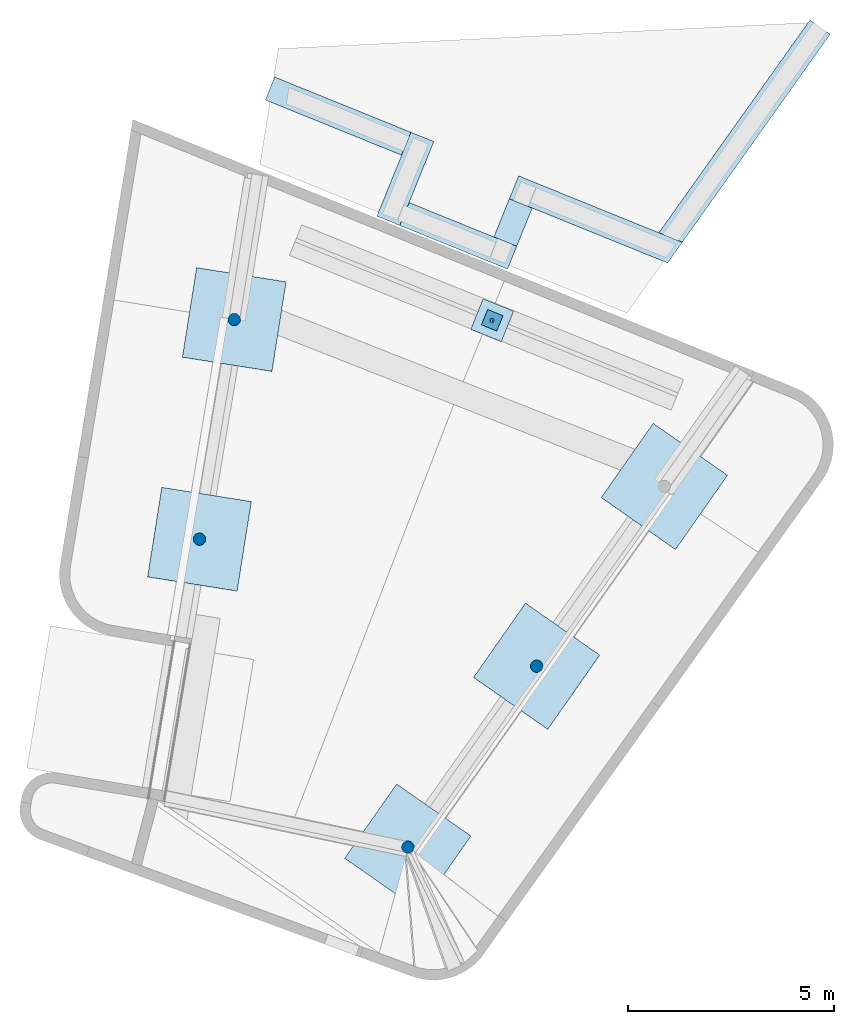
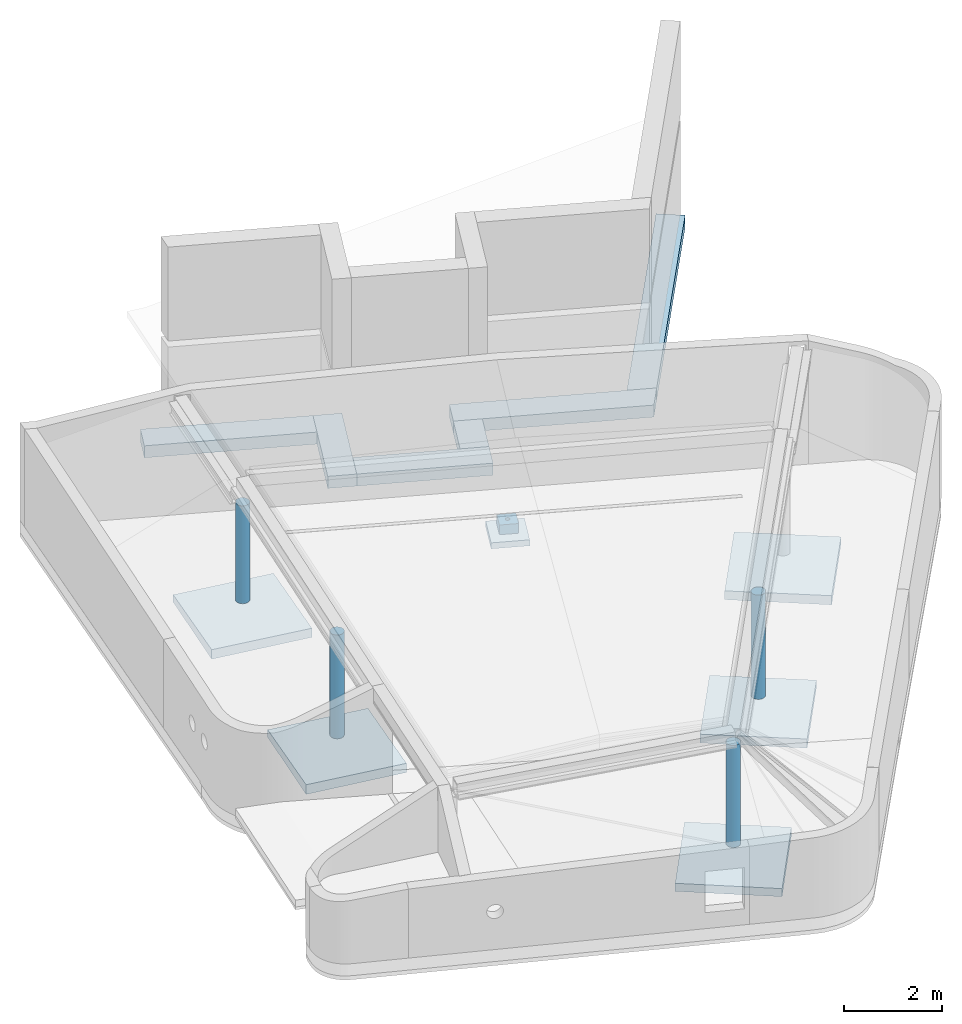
# One storey, part 1 of 8: 13 footings, 4 columns.
"""IFC2X3 building model written with IfcOpenShell, lengths in millimetres."""

from ifc_helpers import new_model, si_unit, frame, origin_with_axes, place, context, subcontext, project, spatial, faceted_brep, material, type_object, element, save


model = new_model("IFC2X3")

# Units and contexts
model_context = context("Model", 3, precision=1e-05, world=origin_with_axes())
body_context = subcontext(model_context, "Body", "Model", "MODEL_VIEW")
ifc_project = project(units=[si_unit("LENGTHUNIT", "METRE", prefix="MILLI"), si_unit("AREAUNIT", "SQUARE_METRE"), si_unit("VOLUMEUNIT", "CUBIC_METRE"), si_unit("MASSUNIT", "GRAM", prefix="KILO"), si_unit("TIMEUNIT", "SECOND"), si_unit("PLANEANGLEUNIT", "RADIAN"), si_unit("SOLIDANGLEUNIT", "STERADIAN"), si_unit("THERMODYNAMICTEMPERATUREUNIT", "DEGREE_CELSIUS"), si_unit("LUMINOUSINTENSITYUNIT", "LUMEN")], contexts=[model_context])

# Site, building, storey
site_placement = place(None, origin_with_axes())
site = spatial("IfcSite", under=ifc_project, at=site_placement, Name="Site", CompositionType="ELEMENT")
building_placement = place(site_placement, origin_with_axes())
building = spatial("IfcBuilding", under=site, at=building_placement, Name="Undefined", CompositionType="ELEMENT")
storey_placement = place(building_placement, origin_with_axes())
storey = spatial("IfcBuildingStorey", under=building, at=storey_placement, Name="Undefined", CompositionType="ELEMENT", Elevation=0.0)

# Footings
ifc_material_1 = material(Name="CONCRETE/C45/55")
footing_1_placement = place(storey_placement, frame((49044.4814740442, 53649.7919003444, 36250.0000000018), z_axis=(0.375513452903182, 0.926799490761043, -0.00568775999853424), x_axis=(0.00213586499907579, 0.00527149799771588, 0.999983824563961)))
element("IfcFooting", 1, at=footing_1_placement, inside=storey, material=ifc_material_1, Name="OLJEUTSKILLER", ObjectType="400*400", PredefinedType="NOTDEFINED", context=body_context, shape_type="Brep", body=[
    faceted_brep([(237.437005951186, 18.1018470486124, -47.3526763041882), (-1.3606040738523e-08, 18.1018470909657, -46.0021698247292), (-1.47338141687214e-08, 2.92681223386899, -49.8016701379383), (237.52679337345, 2.92681219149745, -51.1526873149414), (-1.44136720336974e-08, -12.679594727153, -48.7257901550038), (237.501368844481, -12.6795947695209, -50.0766627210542), (-0.243886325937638, -27.1897099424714, -42.8784573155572), (237.363221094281, -27.1897099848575, -44.2299313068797), (237.125872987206, -39.1831822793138, -34.1848118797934), (-0.186760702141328, -39.1831822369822, -32.8350128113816), (-0.111351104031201, -47.4860069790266, -19.5770026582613), (236.812557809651, -47.486007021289, -20.9245907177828), (-0.0250391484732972, -51.2854458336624, -4.40221326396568), (236.453945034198, -51.2854458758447, -5.74727065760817), (0.0637263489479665, -50.2095832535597, 11.2039412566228), (236.085138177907, -50.209583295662, 9.86148646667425), (0.146256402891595, -44.3637321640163, 25.7138217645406), (235.742238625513, -44.3637322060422, 24.3737867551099), (0.214472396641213, -34.3201252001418, 37.7071000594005), (235.458811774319, -34.3201252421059, 36.369065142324), (0.261696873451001, -21.061900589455, 46.0097904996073), (235.262601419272, -21.0619006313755, 44.6731402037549), (0.283307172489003, -5.88686573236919, 49.8091678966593), (235.172813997, -5.88686577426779, 48.4731512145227), (0.277187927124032, 9.71954122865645, 48.7333227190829), (235.198238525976, 9.71954118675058, 47.3971266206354), (0.243938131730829, 24.2296564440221, 42.8875661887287), (235.336386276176, 24.2296564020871, 41.550395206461), (0.186812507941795, 36.2231287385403, 32.8441216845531), (235.573734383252, 36.2231286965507, 31.5052757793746), (-0.214420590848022, 31.3600717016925, -37.697991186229), (-0.146204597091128, 41.4036786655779, -25.7047128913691), (-0.0636745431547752, 47.2495297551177, -11.1948323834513), (0.0250909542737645, 48.3253923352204, 4.41132213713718), (236.957368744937, 41.4036786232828, -27.0533228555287), (237.240795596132, 31.3600716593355, -39.0486012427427), (236.614469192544, 47.2495297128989, -12.541022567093), (236.245662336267, 48.3253922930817, 3.0677345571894), (235.887049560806, 44.5259534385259, 18.2450546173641), (0.111402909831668, 44.5259534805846, 19.5861115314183), (5.91971911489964e-08, 200.0, 200.0), (5.91971911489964e-08, -199.999999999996, 200.0), (231.592507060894, -200.0, 200.000000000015), (231.592507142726, 199.999999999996, 200.0), (-5.91899151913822e-08, -200.000000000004, -199.999999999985), (241.043787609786, -200.0, -200.0), (-5.91899151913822e-08, 199.999999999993, -199.999999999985), (241.043787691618, 199.999999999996, -199.999999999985)], [[[0, 1, 2, 3]], [[3, 2, 4, 5]], [[5, 4, 6, 7]], [[8, 9, 10, 11]], [[7, 6, 9, 8]], [[12, 10, 9, 6]], [[11, 10, 12, 13]], [[13, 12, 14, 15]], [[15, 14, 16, 17]], [[17, 16, 18, 19]], [[19, 18, 20, 21]], [[21, 20, 22, 23]], [[23, 22, 24, 25]], [[25, 24, 26, 27]], [[27, 26, 28, 29]], [[26, 24, 22, 20, 18, 30, 31, 32, 33]], [[34, 31, 30, 35]], [[36, 32, 31, 34]], [[37, 33, 32, 36]], [[38, 39, 33, 37]], [[29, 28, 39, 38]], [[35, 30, 1, 0]], [[40, 41, 42, 43]], [[41, 44, 45, 42]], [[44, 46, 47, 45]], [[43, 42, 45, 47], [36, 34, 35, 0, 3, 5, 7, 8, 11, 13, 15, 17, 19, 21, 23, 25, 27, 29, 38, 37]], [[46, 40, 43, 47]], [[44, 41, 40, 46], [26, 33, 39, 28], [16, 14, 12, 6, 4, 2, 1, 30, 18]]]),
])
footing_2_placement = place(storey_placement, frame((41938.2175422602, 48333.4841110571, 36300.0202205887), z_axis=(0.15642853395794, 0.987673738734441, -0.00554071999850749), x_axis=(0.00213586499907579, 0.00527149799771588, 0.999983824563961)))
element("IfcFooting", 2, at=footing_2_placement, inside=storey, material=ifc_material_1, Name="PLASSTØPTFUNDAMENT", ObjectType="2200*2200", PredefinedType="NOTDEFINED", context=body_context, shape_type="Brep", body=[
    faceted_brep([(179.291551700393, 1099.99999999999, 1036.03629563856), (211.115547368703, -1100.00000000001, 163.620931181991), (238.92209112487, -1100.00000000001, -1100.00000000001), (226.295985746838, 1099.99999999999, -1099.99999999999), (177.819275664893, 1099.99999999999, 1099.99999999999), (189.562567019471, -1100.00000000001, 1100.0), (-9.10949893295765e-09, -1100.00000000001, -1100.0), (9.11677489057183e-09, -1100.0, 1100.0), (9.11677489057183e-09, 1099.99999999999, 1099.99999999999), (-9.10949893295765e-09, 1099.99999999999, -1100.0)], [[[0, 1, 2, 3]], [[4, 5, 1, 0]], [[6, 7, 8, 9]], [[3, 9, 8, 4, 0]], [[6, 9, 3, 2]], [[7, 6, 2, 1, 5]], [[8, 7, 5, 4]]]),
])
ifc_material_2 = material(Name="CONCRETE/B35")
footing_3_placement = place(storey_placement, frame((49926.4944481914, 56949.7071238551, 36850.0), z_axis=(0.0, 0.0, 1.0), x_axis=(-0.375482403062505, -0.926829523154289, 0.0)))
element("IfcFooting", 3, at=footing_3_placement, inside=storey, material=ifc_material_2, Name="PLASSTØPTFUNDAMENT", ObjectType="300*600", PredefinedType="NOTDEFINED", context=body_context, shape_type="Brep", body=[
    faceted_brep([(500.013998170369, 300.000000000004, -150.0), (500.013998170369, 300.000000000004, 150.0), (1500.16119683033, 299.999999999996, 150.0), (1500.16119683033, 299.999999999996, -150.0), (499.929900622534, -299.999999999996, 150.0), (1499.96777008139, -299.999999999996, 150.0), (499.929900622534, -299.999999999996, -150.0), (1499.96777008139, -299.999999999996, -150.0)], [[[0, 1, 2, 3]], [[1, 4, 5, 2]], [[4, 6, 7, 5]], [[6, 0, 3, 7]], [[5, 7, 3, 2]], [[6, 4, 1, 0]]]),
])
footing_4_placement = place(storey_placement, frame((46822.2084814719, 56266.0701083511, 36850.0000238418), z_axis=(0.0, 0.0, 1.0), x_axis=(0.926708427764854, -0.375781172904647, -9.99999940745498e-09)))
element("IfcFooting", 4, at=footing_4_placement, inside=storey, material=ifc_material_2, Name="PLASSTØPTFUNDAMENT", ObjectType="300*600", PredefinedType="NOTDEFINED", context=body_context, shape_type="Brep", body=[
    faceted_brep([(100.158896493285, 300.0, -150.0), (100.158893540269, 300.000000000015, 150.0), (2920.35364977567, 300.000000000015, 150.0), (2920.35365272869, 300.000000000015, -150.0), (100.352320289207, -299.999999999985, 150.000000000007), (2920.54707652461, -300.0, 150.0), (100.35232324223, -299.999999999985, -149.999999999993), (2920.54707947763, -299.999999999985, -150.0)], [[[0, 1, 2, 3]], [[1, 4, 5, 2]], [[4, 6, 7, 5]], [[6, 0, 3, 7]], [[5, 7, 3, 2]], [[6, 4, 1, 0]]]),
])
footing_5_placement = place(storey_placement, frame((47312.4121125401, 58008.0414740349, 36850.0), z_axis=(0.0, 0.0, 1.0), x_axis=(-0.375482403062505, -0.926829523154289, 0.0)))
element("IfcFooting", 5, at=footing_5_placement, inside=storey, material=ifc_material_2, Name="PLASSTØPTFUNDAMENT", ObjectType="300*600", PredefinedType="NOTDEFINED", context=body_context, shape_type="Brep", body=[
    faceted_brep([(-99.551129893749, 300.0, -150.0), (-99.551129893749, 300.0, 150.0), (2098.60566346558, 299.999999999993, 150.0), (2098.60566346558, 299.999999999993, -150.0), (-99.7749336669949, -300.0, 150.0), (2098.41223671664, -299.999999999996, 150.0), (-99.7749336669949, -300.0, -150.0), (2098.41223671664, -299.999999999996, -150.0)], [[[0, 1, 2, 3]], [[1, 4, 5, 2]], [[4, 6, 7, 5]], [[6, 0, 3, 7]], [[5, 7, 3, 2]], [[6, 4, 1, 0]]]),
])
footing_6_placement = place(storey_placement, frame((43651.0255523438, 59276.7674802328, 36850.0), z_axis=(0.0, 0.0, 1.0), x_axis=(0.926689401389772, -0.375828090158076, 6.00000055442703e-09)))
element("IfcFooting", 6, at=footing_6_placement, inside=storey, material=ifc_material_2, Name="PLASSTØPTFUNDAMENT", ObjectType="300*600", PredefinedType="NOTDEFINED", context=body_context, shape_type="Brep", body=[
    faceted_brep([(1.04155333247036e-08, 300.0, -150.0), (-1.04446371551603e-08, 300.0, 150.0), (3569.75379670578, 300.000000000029, 150.0), (3569.75379481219, 300.000000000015, -150.0), (4.6766217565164e-08, -299.999999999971, 150.0), (3569.97760047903, -299.999999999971, 150.0), (1.04228092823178e-08, -300.0, -150.0), (3569.97759858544, -299.999999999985, -150.0)], [[[0, 1, 2, 3]], [[1, 4, 5, 2]], [[4, 6, 7, 5]], [[6, 0, 3, 7]], [[5, 7, 3, 2]], [[6, 4, 1, 0]]]),
])
footing_7_placement = place(storey_placement, frame((57004.8993181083, 60765.5618649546, 36850.0), z_axis=(0.0, 0.0, 1.0), x_axis=(-0.57926343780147, -0.815140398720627, 0.0)))
element("IfcFooting", 7, at=footing_7_placement, inside=storey, material=ifc_material_2, Name="PLASSTØPTFUNDAMENT", ObjectType="300*600", PredefinedType="NOTDEFINED", context=body_context, shape_type="Brep", body=[
    faceted_brep([(1.04155333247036e-08, 300.0, -150.0), (-1.04446371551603e-08, 300.0, 150.0), (6192.96595295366, 300.000000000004, 150.0), (6192.96595295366, 300.000000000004, -150.0), (4.6766217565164e-08, -299.999999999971, 150.0), (6335.20459934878, -300.0, 150.0), (1.04228092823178e-08, -300.0, -150.0), (6335.20459934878, -300.0, -150.0)], [[[0, 1, 2, 3]], [[1, 4, 5, 2]], [[4, 6, 7, 5]], [[6, 0, 3, 7]], [[5, 7, 3, 2]], [[6, 4, 1, 0]]]),
])
footing_8_placement = place(storey_placement, frame((49044.4814740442, 53649.7919003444, 36052.0000000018), z_axis=(0.375502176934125, 0.926771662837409, -0.00961249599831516), x_axis=(0.00360967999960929, 0.00890900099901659, 0.999953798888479)))
element("IfcFooting", 8, at=footing_8_placement, inside=storey, material=ifc_material_1, Name="PLASSTØPTFUNDAMENT", ObjectType="800*800", PredefinedType="NOTDEFINED", context=body_context, shape_type="Brep", body=[
    faceted_brep([(1.91066646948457e-07, 400.000000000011, -399.999999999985), (-1.91052095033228e-07, 400.000000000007, 400.0), (147.916613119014, 400.000000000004, 400.000000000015), (147.916613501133, 400.000000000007, -400.0), (-1.91059370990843e-07, -399.999999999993, 400.0), (147.916613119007, -399.999999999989, 399.999999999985), (1.91066646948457e-07, -399.999999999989, -400.0), (147.916613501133, -399.999999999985, -400.0)], [[[0, 1, 2, 3]], [[1, 4, 5, 2]], [[4, 6, 7, 5]], [[6, 0, 3, 7]], [[5, 7, 3, 2]], [[6, 4, 1, 0]]]),
])
footing_9_placement = place(storey_placement, frame((42782.9375422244, 53667.0141111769, 36150.02022061), z_axis=(0.15642853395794, 0.987673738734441, -0.00554071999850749), x_axis=(0.00213586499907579, 0.00527149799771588, 0.999983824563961)))
element("IfcFooting", 9, at=footing_9_placement, inside=storey, material=ifc_material_1, Name="PLASSTØPTFUNDAMENT", ObjectType="2200*2200", PredefinedType="NOTDEFINED", context=body_context, shape_type="Brep", body=[
    faceted_brep([(173.584967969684, 1100.00000000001, 1100.00000000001), (185.328259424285, -1100.0, 1100.00000000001), (235.96646601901, -1099.99999999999, -1099.99999999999), (224.223174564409, 1100.0, -1099.99999999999), (-9.10949893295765e-09, -1100.00000000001, -1100.0), (9.11677489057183e-09, -1100.0, 1100.0), (9.11677489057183e-09, 1099.99999999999, 1099.99999999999), (-9.10949893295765e-09, 1099.99999999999, -1100.0)], [[[0, 1, 2, 3]], [[4, 5, 6, 7]], [[7, 6, 0, 3]], [[4, 7, 3, 2]], [[5, 4, 2, 1]], [[6, 5, 1, 0]]]),
])
footing_10_placement = place(storey_placement, frame((53223.9275425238, 49614.7341111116, 36150.0202205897), z_axis=(0.573570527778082, 0.819137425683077, -0.00554323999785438), x_axis=(0.00213586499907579, 0.00527149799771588, 0.999983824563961)))
element("IfcFooting", 10, at=footing_10_placement, inside=storey, material=ifc_material_1, Name="PLASSTØPTFUNDAMENT", ObjectType="2200*2200", PredefinedType="NOTDEFINED", context=body_context, shape_type="Brep", body=[
    faceted_brep([(178.417850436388, 1099.99999999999, 1100.0), (168.543702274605, -1100.00000000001, 1100.0), (217.591025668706, -1100.00000000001, -1099.99999999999), (227.465173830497, 1099.99999999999, -1100.0), (-9.10949893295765e-09, -1100.00000000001, -1100.0), (9.11677489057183e-09, -1100.0, 1100.0), (9.11677489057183e-09, 1099.99999999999, 1099.99999999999), (-9.10949893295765e-09, 1099.99999999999, -1100.0)], [[[0, 1, 2, 3]], [[4, 5, 6, 7]], [[7, 6, 0, 3]], [[4, 7, 3, 2]], [[5, 4, 2, 1]], [[6, 5, 1, 0]]]),
])
footing_11_placement = place(storey_placement, frame((46996.14147402, 40859.7919003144, 36350.0), z_axis=(0.573576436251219, 0.819152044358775, 4.37000002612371e-07), x_axis=(0.0, 0.0, 1.0)))
element("IfcFooting", 11, at=footing_11_placement, inside=storey, material=ifc_material_1, Name="PLASSTØPTFUNDAMENT", ObjectType="2200*2200", PredefinedType="NOTDEFINED", context=body_context, shape_type="Brep", body=[
    faceted_brep([(9.11677489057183e-09, -1100.0, 1100.0), (-9.10949893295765e-09, -1100.00000000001, -1100.0), (200.0, -1100.0, -1099.99999999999), (200.0, -1100.0, 1100.0), (9.11677489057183e-09, 1099.99999999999, 1099.99999999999), (200.0, 1100.00000000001, 1100.0), (-9.10949893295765e-09, 1099.99999999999, -1100.0), (200.0, 1100.0, -1100.0)], [[[0, 1, 2, 3]], [[4, 0, 3, 5]], [[1, 0, 4, 6]], [[1, 6, 7, 2]], [[3, 2, 7, 5]], [[6, 4, 5, 7]]]),
])
footing_12_placement = place(storey_placement, frame((50123.1975424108, 45249.9241110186, 36300.0202205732), z_axis=(0.573570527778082, 0.819137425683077, -0.00554323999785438), x_axis=(0.00213586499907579, 0.00527149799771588, 0.999983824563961)))
element("IfcFooting", 12, at=footing_12_placement, inside=storey, material=ifc_material_1, Name="PLASSTØPTFUNDAMENT", ObjectType="2200*2200", PredefinedType="NOTDEFINED", context=body_context, shape_type="Brep", body=[
    faceted_brep([(177.268340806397, 1100.0, 1100.0), (167.394191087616, -1100.0, 1100.0), (216.441514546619, -1100.0, -1099.99999999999), (226.315664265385, 1099.99999999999, -1099.99999999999), (-9.10949893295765e-09, -1100.00000000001, -1100.0), (9.11677489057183e-09, -1100.0, 1100.0), (9.11677489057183e-09, 1099.99999999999, 1099.99999999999), (-9.10949893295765e-09, 1099.99999999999, -1100.0)], [[[0, 1, 2, 3]], [[4, 5, 6, 7]], [[7, 6, 0, 3]], [[4, 7, 3, 2]], [[5, 4, 2, 1]], [[6, 5, 1, 0]]]),
])
footing_13_placement = place(storey_placement, frame((50036.6489476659, 56689.2913388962, 36850.0), z_axis=(0.0, 0.0, 1.0), x_axis=(0.926776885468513, -0.375612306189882, 7.9999988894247e-09)))
element("IfcFooting", 13, at=footing_13_placement, inside=storey, material=ifc_material_2, Name="PLASSTØPTFUNDAMENT", ObjectType="300*600", PredefinedType="NOTDEFINED", context=body_context, shape_type="Brep", body=[
    faceted_brep([(-499.918041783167, 300.0, -150.000000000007), (-499.918039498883, 300.000000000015, 149.999999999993), (3790.28582693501, 300.000000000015, 150.0), (3790.28582463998, 300.0, -150.0), (-499.833941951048, -299.999999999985, 150.0), (3648.04797866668, -299.999999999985, 150.000000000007), (-499.833944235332, -299.999999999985, -150.0), (3648.04797637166, -299.999999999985, -149.999999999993)], [[[0, 1, 2, 3]], [[1, 4, 5, 2]], [[4, 6, 7, 5]], [[6, 0, 3, 7]], [[5, 7, 3, 2]], [[6, 4, 1, 0]]]),
])

# Columns
ifc_material_3 = material(Name="CONCRETE/C55/67")
column_type = type_object("IfcColumnType", Name="D300", PredefinedType="NOTDEFINED")
column_1_placement = place(storey_placement, frame((41938.7514740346, 48334.8019002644, 36400.0000000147), z_axis=(0.573576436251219, 0.819152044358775, 4.37000002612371e-07), x_axis=(-9.99999999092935e-07, 1.66000000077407e-07, 0.999999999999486)))
element("IfcColumn", 14, at=column_1_placement, inside=storey, type_object=column_type, material=ifc_material_3, Name="PLASSTØPTSØYLE", ObjectType="D300", context=body_context, shape_type="Brep", body=[
    faceted_brep([(406.889775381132, -150.000000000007, 0.0), (406.889785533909, -147.117792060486, -29.2635483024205), (2999.99658725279, -147.117792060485, -29.2635483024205), (2999.99658727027, -150.000000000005, 0.0), (406.889790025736, -138.581929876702, -57.4025148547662), (2999.99658723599, -138.581929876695, -57.4025148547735), (406.889788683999, -124.720441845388, -83.3355349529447), (2999.9965872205, -124.720441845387, -83.3355349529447), (406.889781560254, -106.066017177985, -106.066017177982), (2999.99658720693, -106.066017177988, -106.066017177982), (406.88976892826, -83.3355349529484, -124.720441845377), (2999.99658719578, -83.3355349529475, -124.720441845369), (406.889751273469, -57.4025148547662, -138.581929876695), (2999.99658718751, -57.4025148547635, -138.581929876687), (406.889729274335, -29.2635483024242, -147.117792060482), (2999.99658718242, -29.2635483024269, -147.11779206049), (406.889703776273, 0.0, -149.999999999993), (2999.99658718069, -4.54747350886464e-12, -150.0), (406.889675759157, 29.2635483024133, -147.117792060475), (2999.99658718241, 29.2635483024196, -147.117792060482), (406.889646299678, 57.4025148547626, -138.581929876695), (2999.99658718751, 57.4025148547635, -138.581929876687), (406.889616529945, 83.3355349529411, -124.720441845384), (2999.99658719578, 83.3355349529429, -124.720441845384), (406.889587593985, 106.066017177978, -106.066017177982), (2999.99658720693, 106.066017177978, -106.066017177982), (406.889560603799, 124.72044184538, -83.3355349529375), (2999.9965872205, 124.720441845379, -83.3355349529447), (406.889536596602, 138.581929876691, -57.4025148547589), (2999.99658723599, 138.581929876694, -57.4025148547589), (406.889516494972, 147.117792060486, -29.2635483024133), (2999.99658725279, 147.117792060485, -29.2635483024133), (406.889501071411, 150.0, 7.27595761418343e-12), (2999.99658727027, 149.999999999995, 7.27595761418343e-12), (406.889490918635, 147.117792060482, 29.2635483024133), (2999.99658728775, 147.117792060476, 29.2635483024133), (406.8894864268, 138.581929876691, 57.4025148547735), (2999.99658730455, 138.581929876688, 57.4025148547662), (406.889487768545, 124.72044184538, 83.3355349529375), (2999.99658732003, 124.72044184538, 83.3355349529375), (406.88949489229, 106.066017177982, 106.066017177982), (2999.99658733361, 106.066017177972, 106.066017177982), (406.889507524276, 83.3355349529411, 124.720441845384), (2999.99658734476, 83.3355349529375, 124.720441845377), (406.889525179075, 57.4025148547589, 138.581929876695), (2999.99658735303, 57.4025148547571, 138.581929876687), (406.889547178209, 29.2635483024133, 147.11779206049), (2999.99658735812, 29.2635483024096, 147.117792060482), (406.889572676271, -3.63797880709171e-12, 150.000000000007), (2999.99658735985, -9.09494701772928e-13, 149.999999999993), (406.889600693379, -29.2635483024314, 147.117792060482), (2999.99658735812, -29.2635483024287, 147.117792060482), (406.889630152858, -57.4025148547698, 138.581929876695), (2999.99658735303, -57.4025148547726, 138.581929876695), (406.889659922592, -83.3355349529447, 124.720441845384), (2999.99658734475, -83.3355349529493, 124.720441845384), (406.889688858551, -106.066017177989, 106.066017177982), (2999.99658733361, -106.066017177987, 106.066017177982), (406.889715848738, -124.720441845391, 83.3355349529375), (2999.99658732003, -124.720441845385, 83.3355349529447), (406.889739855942, -138.581929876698, 57.4025148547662), (2999.99658730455, -138.581929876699, 57.4025148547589), (406.889759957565, -147.11779206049, 29.2635483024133), (2999.99658728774, -147.117792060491, 29.2635483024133)], [[[0, 1, 2, 3]], [[1, 4, 5, 2]], [[4, 6, 7, 5]], [[6, 8, 9, 7]], [[8, 10, 11, 9]], [[10, 12, 13, 11]], [[12, 14, 15, 13]], [[14, 16, 17, 15]], [[16, 18, 19, 17]], [[18, 20, 21, 19]], [[20, 22, 23, 21]], [[22, 24, 25, 23]], [[24, 26, 27, 25]], [[26, 28, 29, 27]], [[28, 30, 31, 29]], [[30, 32, 33, 31]], [[32, 34, 35, 33]], [[34, 36, 37, 35]], [[36, 38, 39, 37]], [[38, 40, 41, 39]], [[40, 42, 43, 41]], [[42, 44, 45, 43]], [[44, 46, 47, 45]], [[46, 48, 49, 47]], [[48, 50, 51, 49]], [[50, 52, 53, 51]], [[52, 54, 55, 53]], [[54, 56, 57, 55]], [[56, 58, 59, 57]], [[58, 60, 61, 59]], [[60, 62, 63, 61]], [[62, 0, 3, 63]], [[5, 7, 9, 11, 13, 15, 17, 19, 21, 23, 25, 27, 29, 31, 33, 35, 37, 39, 41, 43, 45, 47, 49, 51, 53, 55, 57, 59, 61, 63, 3, 2]], [[62, 60, 58, 56, 54, 52, 50, 48, 46, 44, 42, 40, 38, 36, 34, 32, 30, 28, 26, 24, 22, 20, 18, 16, 14, 12, 10, 8, 6, 4, 1, 0]]]),
])
column_2_placement = place(storey_placement, frame((42783.4714740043, 53668.3319003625, 36200.0000000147), z_axis=(0.573576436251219, 0.819152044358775, 4.37000002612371e-07), x_axis=(-9.99999999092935e-07, 1.66000000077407e-07, 0.999999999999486)))
element("IfcColumn", 15, at=column_2_placement, inside=storey, type_object=column_type, material=ifc_material_3, Name="PLASSTØPTSØYLE", ObjectType="D300", context=body_context, shape_type="Brep", body=[
    faceted_brep([(452.670552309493, -149.999999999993, 1.45519152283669e-11), (452.6705628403, -147.117792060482, -29.2635483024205), (2899.99658729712, -147.117792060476, -29.2635483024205), (2899.99658727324, -149.999999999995, 0.0), (452.670567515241, -138.581929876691, -57.4025148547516), (2899.99658732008, -138.581929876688, -57.4025148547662), (452.670566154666, -124.720441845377, -83.3355349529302), (2899.99658734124, -124.720441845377, -83.3355349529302), (452.670558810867, -106.066017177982, -106.066017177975), (2899.9965873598, -106.066017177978, -106.066017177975), (452.67054576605, -83.3355349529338, -124.720441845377), (2899.99658737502, -83.3355349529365, -124.720441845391), (452.670527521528, -57.4025148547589, -138.581929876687), (2899.99658738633, -57.4025148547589, -138.581929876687), (452.67050477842, -29.263548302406, -147.117792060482), (2899.9965873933, -29.2635483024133, -147.117792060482), (452.670478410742, 3.63797880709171e-12, -149.999999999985), (2899.99658739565, 2.72848410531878e-12, -149.999999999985), (452.670449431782, 29.2635483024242, -147.117792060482), (2899.9965873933, 29.2635483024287, -147.117792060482), (452.670418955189, 57.4025148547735, -138.581929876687), (2899.99658738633, 57.4025148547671, -138.581929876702), (452.670388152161, 83.3355349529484, -124.720441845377), (2899.99658737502, 83.3355349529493, -124.720441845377), (452.670358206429, 106.066017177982, -106.066017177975), (2899.9965873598, 106.066017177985, -106.066017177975), (452.670330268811, 124.720441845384, -83.3355349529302), (2899.99658734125, 124.720441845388, -83.3355349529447), (452.670305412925, 138.581929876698, -57.4025148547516), (2899.99658732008, 138.581929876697, -57.4025148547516), (452.670284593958, 147.11779206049, -29.263548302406), (2899.99658729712, 147.117792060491, -29.263548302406), (452.67026861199, 150.0, 1.45519152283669e-11), (2899.99658727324, 150.000000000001, 0.0), (452.670258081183, 147.117792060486, 29.2635483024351), (2899.99658724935, 147.117792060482, 29.2635483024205), (452.670253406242, 138.581929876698, 57.4025148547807), (2899.99658722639, 138.581929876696, 57.4025148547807), (452.670254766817, 124.720441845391, 83.3355349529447), (2899.99658720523, 124.720441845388, 83.3355349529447), (452.670262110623, 106.066017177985, 106.066017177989), (2899.99658718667, 106.066017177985, 106.066017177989), (452.67027515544, 83.3355349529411, 124.720441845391), (2899.99658717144, 83.3355349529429, 124.720441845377), (452.670293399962, 57.4025148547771, 138.581929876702), (2899.99658716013, 57.4025148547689, 138.581929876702), (452.670316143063, 29.2635483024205, 147.117792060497), (2899.99658715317, 29.2635483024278, 147.117792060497), (452.670342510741, 7.27595761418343e-12, 150.000000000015), (2899.99658715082, 3.63797880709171e-12, 150.000000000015), (452.670371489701, -29.2635483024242, 147.117792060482), (2899.99658715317, -29.2635483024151, 147.117792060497), (452.670401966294, -57.4025148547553, 138.581929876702), (2899.99658716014, -57.4025148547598, 138.581929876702), (452.67043276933, -83.3355349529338, 124.720441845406), (2899.99658717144, -83.3355349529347, 124.720441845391), (452.670462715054, -106.066017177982, 106.066017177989), (2899.99658718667, -106.066017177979, 106.066017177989), (452.670490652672, -124.72044184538, 83.3355349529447), (2899.99658720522, -124.720441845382, 83.3355349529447), (452.670515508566, -138.581929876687, 57.4025148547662), (2899.99658722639, -138.58192987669, 57.4025148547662), (452.670536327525, -147.117792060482, 29.2635483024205), (2899.99658724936, -147.117792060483, 29.2635483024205)], [[[0, 1, 2, 3]], [[1, 4, 5, 2]], [[4, 6, 7, 5]], [[6, 8, 9, 7]], [[8, 10, 11, 9]], [[10, 12, 13, 11]], [[12, 14, 15, 13]], [[14, 16, 17, 15]], [[16, 18, 19, 17]], [[18, 20, 21, 19]], [[20, 22, 23, 21]], [[22, 24, 25, 23]], [[24, 26, 27, 25]], [[26, 28, 29, 27]], [[28, 30, 31, 29]], [[30, 32, 33, 31]], [[32, 34, 35, 33]], [[34, 36, 37, 35]], [[36, 38, 39, 37]], [[38, 40, 41, 39]], [[40, 42, 43, 41]], [[42, 44, 45, 43]], [[44, 46, 47, 45]], [[46, 48, 49, 47]], [[48, 50, 51, 49]], [[50, 52, 53, 51]], [[52, 54, 55, 53]], [[54, 56, 57, 55]], [[56, 58, 59, 57]], [[58, 60, 61, 59]], [[60, 62, 63, 61]], [[62, 0, 3, 63]], [[5, 7, 9, 11, 13, 15, 17, 19, 21, 23, 25, 27, 29, 31, 33, 35, 37, 39, 41, 43, 45, 47, 49, 51, 53, 55, 57, 59, 61, 63, 3, 2]], [[62, 60, 58, 56, 54, 52, 50, 48, 46, 44, 42, 40, 38, 36, 34, 32, 30, 28, 26, 24, 22, 20, 18, 16, 14, 12, 10, 8, 6, 4, 1, 0]]]),
])
column_3_placement = place(storey_placement, frame((50123.7314739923, 45251.2419002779, 36400.0), z_axis=(0.573576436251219, 0.819152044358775, 4.37000002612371e-07), x_axis=(0.0, 0.0, 1.0)))
element("IfcColumn", 16, at=column_3_placement, inside=storey, type_object=column_type, material=ifc_material_3, Name="PLASSTØPTSØYLE", ObjectType="D300", context=body_context, shape_type="Brep", body=[
    faceted_brep([(395.183474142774, -150.000000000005, 0.0), (395.183474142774, -147.117792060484, -29.2635483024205), (3000.0, -147.117792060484, -29.2635483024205), (3000.0, -150.000000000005, 0.0), (395.183474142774, -138.581929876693, -57.4025148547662), (3000.0, -138.581929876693, -57.4025148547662), (395.183474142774, -124.720441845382, -83.3355349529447), (3000.0, -124.720441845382, -83.3355349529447), (395.183474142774, -106.066017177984, -106.066017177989), (3000.0, -106.066017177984, -106.066017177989), (395.183474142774, -83.3355349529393, -124.720441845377), (3000.0, -83.3355349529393, -124.720441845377), (395.183474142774, -57.4025148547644, -138.581929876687), (3000.0, -57.4025148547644, -138.581929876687), (395.183474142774, -29.263548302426, -147.117792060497), (3000.0, -29.263548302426, -147.117792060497), (395.183474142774, -1.81898940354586e-12, -150.0), (3000.0, -1.81898940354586e-12, -150.0), (395.183474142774, 29.2635483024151, -147.117792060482), (3000.0, 29.2635483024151, -147.117792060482), (395.183474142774, 57.4025148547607, -138.581929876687), (3000.0, 57.4025148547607, -138.581929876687), (395.183474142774, 83.3355349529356, -124.720441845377), (3000.0, 83.3355349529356, -124.720441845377), (395.183474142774, 106.066017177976, -106.066017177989), (3000.0, 106.066017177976, -106.066017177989), (395.183474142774, 124.720441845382, -83.3355349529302), (3000.0, 124.720441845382, -83.3355349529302), (395.183474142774, 138.581929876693, -57.4025148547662), (3000.0, 138.581929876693, -57.4025148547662), (395.183474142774, 147.117792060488, -29.2635483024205), (3000.0, 147.117792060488, -29.2635483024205), (395.183474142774, 149.999999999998, 0.0), (3000.0, 149.999999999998, 0.0), (395.183474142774, 147.117792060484, 29.2635483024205), (3000.0, 147.117792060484, 29.2635483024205), (395.183474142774, 138.581929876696, 57.4025148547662), (3000.0, 138.581929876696, 57.4025148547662), (395.183474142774, 124.720441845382, 83.3355349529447), (3000.0, 124.720441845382, 83.3355349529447), (395.183474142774, 106.066017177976, 106.066017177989), (3000.0, 106.066017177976, 106.066017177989), (395.183474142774, 83.335534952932, 124.720441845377), (3000.0, 83.335534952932, 124.720441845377), (395.183474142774, 57.4025148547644, 138.581929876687), (3000.0, 57.4025148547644, 138.581929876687), (395.183474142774, 29.2635483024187, 147.117792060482), (3000.0, 29.2635483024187, 147.117792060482), (395.183474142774, -5.45696821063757e-12, 150.0), (3000.0, -5.45696821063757e-12, 150.0), (395.183474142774, -29.2635483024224, 147.117792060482), (3000.0, -29.2635483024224, 147.117792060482), (395.183474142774, -57.4025148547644, 138.581929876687), (3000.0, -57.4025148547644, 138.581929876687), (395.183474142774, -83.3355349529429, 124.720441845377), (3000.0, -83.3355349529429, 124.720441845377), (395.183474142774, -106.066017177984, 106.066017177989), (3000.0, -106.066017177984, 106.066017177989), (395.183474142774, -124.720441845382, 83.3355349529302), (3000.0, -124.720441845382, 83.3355349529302), (395.183474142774, -138.581929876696, 57.4025148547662), (3000.0, -138.581929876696, 57.4025148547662), (395.183474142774, -147.117792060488, 29.2635483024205), (3000.0, -147.117792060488, 29.2635483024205)], [[[0, 1, 2, 3]], [[1, 4, 5, 2]], [[4, 6, 7, 5]], [[6, 8, 9, 7]], [[8, 10, 11, 9]], [[10, 12, 13, 11]], [[12, 14, 15, 13]], [[14, 16, 17, 15]], [[16, 18, 19, 17]], [[18, 20, 21, 19]], [[20, 22, 23, 21]], [[22, 24, 25, 23]], [[24, 26, 27, 25]], [[26, 28, 29, 27]], [[28, 30, 31, 29]], [[30, 32, 33, 31]], [[32, 34, 35, 33]], [[34, 36, 37, 35]], [[36, 38, 39, 37]], [[38, 40, 41, 39]], [[40, 42, 43, 41]], [[42, 44, 45, 43]], [[44, 46, 47, 45]], [[46, 48, 49, 47]], [[48, 50, 51, 49]], [[50, 52, 53, 51]], [[52, 54, 55, 53]], [[54, 56, 57, 55]], [[56, 58, 59, 57]], [[58, 60, 61, 59]], [[60, 62, 63, 61]], [[62, 0, 3, 63]], [[5, 7, 9, 11, 13, 15, 17, 19, 21, 23, 25, 27, 29, 31, 33, 35, 37, 39, 41, 43, 45, 47, 49, 51, 53, 55, 57, 59, 61, 63, 3, 2]], [[62, 60, 58, 56, 54, 52, 50, 48, 46, 44, 42, 40, 38, 36, 34, 32, 30, 28, 26, 24, 22, 20, 18, 16, 14, 12, 10, 8, 6, 4, 1, 0]]]),
])
column_4_placement = place(storey_placement, frame((46996.14147402, 40859.7919003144, 36550.0), z_axis=(0.573576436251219, 0.819152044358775, 4.37000002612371e-07), x_axis=(0.0, 0.0, 1.0)))
element("IfcColumn", 17, at=column_4_placement, inside=storey, type_object=column_type, material=ifc_material_3, Name="PLASSTØPTSØYLE", ObjectType="D300", context=body_context, shape_type="Brep", body=[
    faceted_brep([(300.0, -149.999999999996, 0.0), (300.0, -147.117792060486, -29.2635483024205), (2850.0, -147.117792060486, -29.2635483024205), (2850.0, -149.999999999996, 0.0), (300.0, -138.581929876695, -57.4025148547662), (2850.0, -138.581929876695, -57.4025148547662), (300.0, -124.720441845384, -83.3355349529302), (2850.0, -124.720441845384, -83.3355349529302), (300.0, -106.066017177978, -106.066017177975), (2850.0, -106.066017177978, -106.066017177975), (300.0, -83.3355349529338, -124.720441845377), (2850.0, -83.3355349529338, -124.720441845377), (300.0, -57.4025148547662, -138.581929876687), (2850.0, -57.4025148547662, -138.581929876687), (300.0, -29.2635483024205, -147.117792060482), (2850.0, -29.2635483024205, -147.117792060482), (300.0, 3.63797880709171e-12, -150.0), (2850.0, 3.63797880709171e-12, -150.0), (300.0, 29.2635483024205, -147.117792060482), (2850.0, 29.2635483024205, -147.117792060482), (300.0, 57.4025148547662, -138.581929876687), (2850.0, 57.4025148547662, -138.581929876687), (300.0, 83.3355349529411, -124.720441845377), (2850.0, 83.3355349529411, -124.720441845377), (300.0, 106.066017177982, -106.066017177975), (2850.0, 106.066017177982, -106.066017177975), (300.0, 124.72044184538, -83.3355349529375), (2850.0, 124.72044184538, -83.3355349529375), (300.0, 138.581929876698, -57.4025148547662), (2850.0, 138.581929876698, -57.4025148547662), (300.0, 147.117792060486, -29.2635483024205), (2850.0, 147.117792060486, -29.2635483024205), (300.0, 150.000000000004, 7.27595761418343e-12), (2850.0, 150.000000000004, 7.27595761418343e-12), (300.0, 147.117792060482, 29.2635483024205), (2850.0, 147.117792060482, 29.2635483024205), (300.0, 138.581929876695, 57.4025148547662), (2850.0, 138.581929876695, 57.4025148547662), (300.0, 124.72044184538, 83.3355349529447), (2850.0, 124.72044184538, 83.3355349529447), (300.0, 106.066017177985, 106.066017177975), (2850.0, 106.066017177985, 106.066017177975), (300.0, 83.3355349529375, 124.720441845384), (2850.0, 83.3355349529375, 124.720441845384), (300.0, 57.4025148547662, 138.581929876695), (2850.0, 57.4025148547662, 138.581929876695), (300.0, 29.2635483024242, 147.11779206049), (2850.0, 29.2635483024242, 147.11779206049), (300.0, 0.0, 150.000000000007), (2850.0, 0.0, 150.000000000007), (300.0, -29.2635483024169, 147.117792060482), (2850.0, -29.2635483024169, 147.117792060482), (300.0, -57.4025148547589, 138.581929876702), (2850.0, -57.4025148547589, 138.581929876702), (300.0, -83.3355349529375, 124.720441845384), (2850.0, -83.3355349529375, 124.720441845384), (300.0, -106.066017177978, 106.066017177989), (2850.0, -106.066017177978, 106.066017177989), (300.0, -124.720441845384, 83.3355349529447), (2850.0, -124.720441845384, 83.3355349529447), (300.0, -138.581929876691, 57.4025148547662), (2850.0, -138.581929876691, 57.4025148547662), (300.0, -147.117792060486, 29.2635483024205), (2850.0, -147.117792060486, 29.2635483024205)], [[[0, 1, 2, 3]], [[1, 4, 5, 2]], [[4, 6, 7, 5]], [[6, 8, 9, 7]], [[8, 10, 11, 9]], [[10, 12, 13, 11]], [[12, 14, 15, 13]], [[14, 16, 17, 15]], [[16, 18, 19, 17]], [[18, 20, 21, 19]], [[20, 22, 23, 21]], [[22, 24, 25, 23]], [[24, 26, 27, 25]], [[26, 28, 29, 27]], [[28, 30, 31, 29]], [[30, 32, 33, 31]], [[32, 34, 35, 33]], [[34, 36, 37, 35]], [[36, 38, 39, 37]], [[38, 40, 41, 39]], [[40, 42, 43, 41]], [[42, 44, 45, 43]], [[44, 46, 47, 45]], [[46, 48, 49, 47]], [[48, 50, 51, 49]], [[50, 52, 53, 51]], [[52, 54, 55, 53]], [[54, 56, 57, 55]], [[56, 58, 59, 57]], [[58, 60, 61, 59]], [[60, 62, 63, 61]], [[62, 0, 3, 63]], [[5, 7, 9, 11, 13, 15, 17, 19, 21, 23, 25, 27, 29, 31, 33, 35, 37, 39, 41, 43, 45, 47, 49, 51, 53, 55, 57, 59, 61, 63, 3, 2]], [[62, 60, 58, 56, 54, 52, 50, 48, 46, 44, 42, 40, 38, 36, 34, 32, 30, 28, 26, 24, 22, 20, 18, 16, 14, 12, 10, 8, 6, 4, 1, 0]]]),
])

save(model, "model.ifc")
